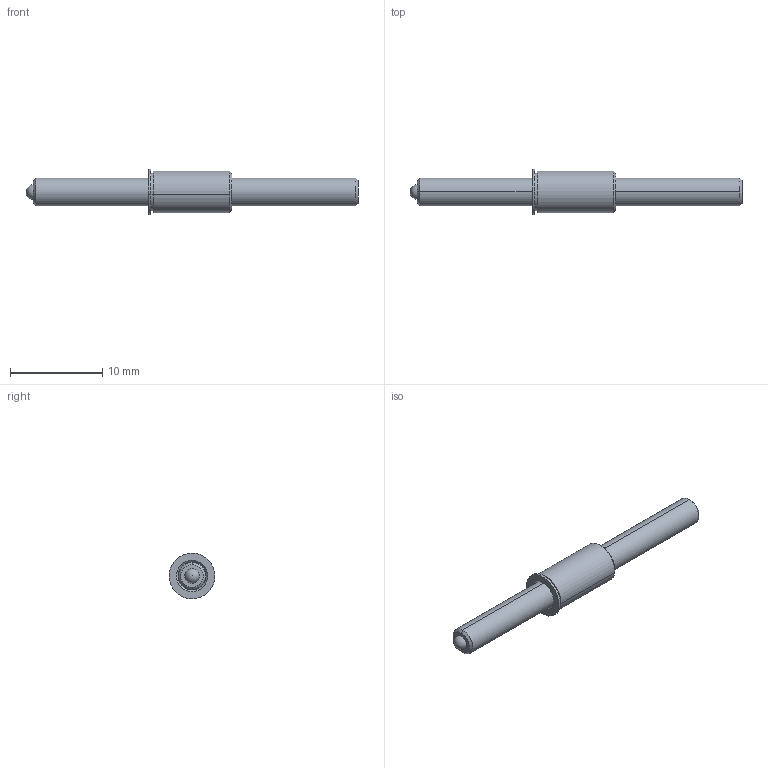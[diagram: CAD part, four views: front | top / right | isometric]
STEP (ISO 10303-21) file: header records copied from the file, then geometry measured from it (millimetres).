
FILE_DESCRIPTION (( 'STEP AP214' ), '1' );
FILE_NAME ('TSBM3-25-36_9.STEP', '2013-03-15T10:15:00', ( 'workpc' ), ( 'Microsoft' ), 'SwSTEP 2.0', 'SolidWorks 2013', '' );
FILE_SCHEMA (( 'AUTOMOTIVE_DESIGN' ));
Length unit declared in the file: inch
Products named in the file (1): TSBM3-25-36_9
Bounding box: 36 x 4.95 x 4.95 mm (x, y, z)
Surface area: 514.4 mm2 (no closed solid volume)
Topology: 0 solids, 3 shells, 32 faces, 75 edges, 49 vertices
Faces by surface type: plane 12, cone 10, cylinder 8, sphere 2
Entity records: 1325 total; most frequent: DIRECTION 170, CARTESIAN_POINT 149, ORIENTED_EDGE 128, EDGE_CURVE 70, AXIS2_PLACEMENT_3D 67, VERTEX_POINT 46, EDGE_LOOP 38, LINE 36
